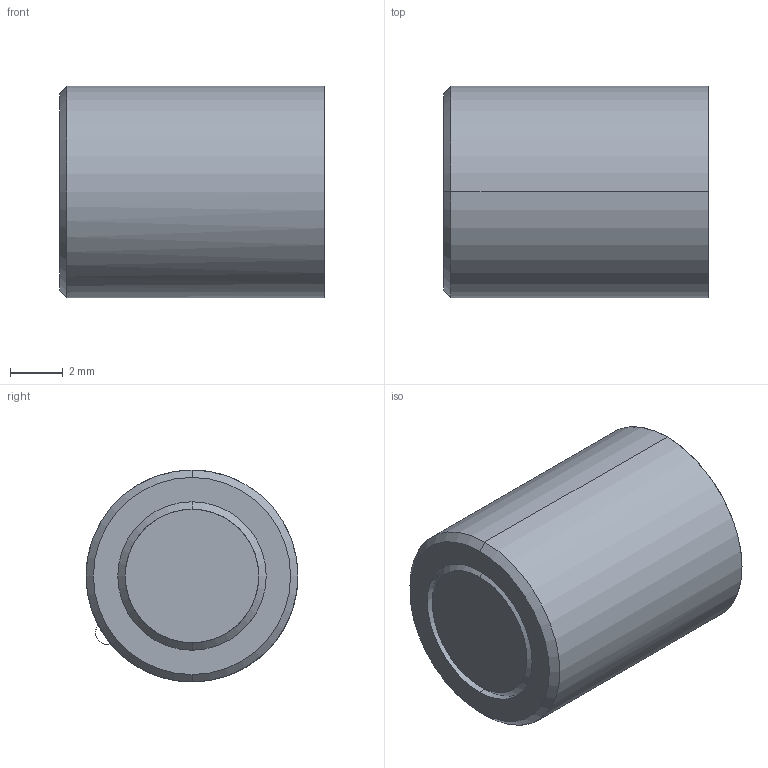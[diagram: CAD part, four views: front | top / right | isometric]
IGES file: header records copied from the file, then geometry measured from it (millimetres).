
Start section: START RECORD GO HERE.
Global section: file name: D375-8-A-DM-FA.igs; native system: DASSAULT SYSTEMES CATIA V5 R20 - www.3ds.com; preprocessor: CATIA Version 5 Release 20 ; author: Utente; organization: NB04-ASUS; date: 20210326.154918; units: millimetre
Bounding box: 10 x 8 x 8 mm (x, y, z)
Surface area: 696.7 mm2 (no closed solid volume)
Topology: 0 solids, 0 shells, 216 faces, 1194 edges, 1188 vertices
Faces by surface type: plane 135, revolution 81
